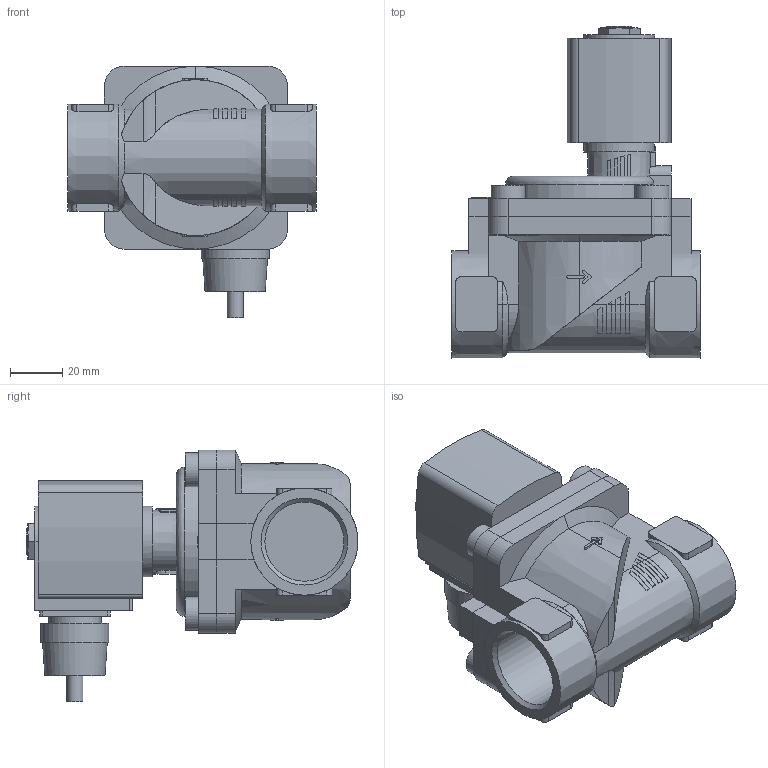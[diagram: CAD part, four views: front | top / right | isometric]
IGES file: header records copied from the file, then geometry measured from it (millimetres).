
Start section: Data from Parasolid IGES Translator 26.0.171, Copyright(c) 2006 Siemens PLM Software. All Rights Reserved.
Global section: file name: 6281-366381-2_2-Way_Solenoid_Valve__Servo-assisted__General_Purpose.igs; native system: By Siemens PLM Incorporated; preprocessor: XPlus GENERIC/IGES 26.0.171; author: Noname; organization: Noname; date: 20240823.234246; units: millimetre
Bounding box: 95 x 127 x 96.3 mm (x, y, z)
Surface area: 58710.5 mm2 (no closed solid volume)
Topology: 0 solids, 0 shells, 312 faces, 1678 edges, 1664 vertices
Faces by surface type: extrusion 189, revolution 123
